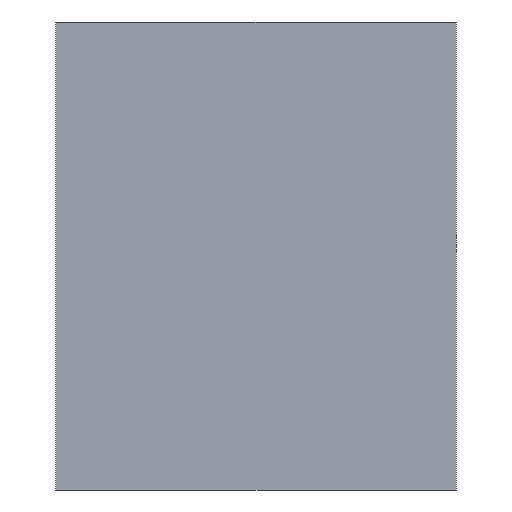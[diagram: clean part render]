
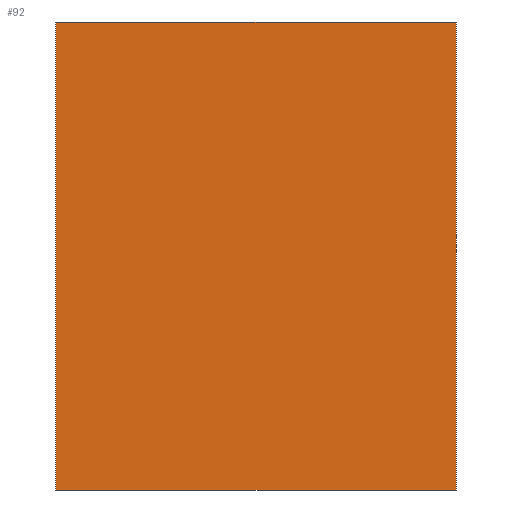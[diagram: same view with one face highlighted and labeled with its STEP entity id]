
A CAD part, top view. The second image highlights one B-rep face of the part: STEP entity #92.
In plain terms, the highlighted planar face has unit normal (0, 0, 1).
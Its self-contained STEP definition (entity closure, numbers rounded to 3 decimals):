
#53=CARTESIAN_POINT('Axis2P3D Location',(0.,0.,0.)) ;
#58=CARTESIAN_POINT('Line Origine',(59.5,0.,0.)) ;
#62=CARTESIAN_POINT('Vertex',(0.,0.,0.)) ;
#64=CARTESIAN_POINT('Vertex',(119.,0.,0.)) ;
#67=CARTESIAN_POINT('Line Origine',(119.,69.5,0.)) ;
#71=CARTESIAN_POINT('Vertex',(119.,139.,0.)) ;
#74=CARTESIAN_POINT('Line Origine',(59.5,139.,0.)) ;
#78=CARTESIAN_POINT('Vertex',(0.,139.,0.)) ;
#81=CARTESIAN_POINT('Line Origine',(0.,69.5,0.)) ;
#54=DIRECTION('Axis2P3D Direction',(0.,0.,1.)) ;
#55=DIRECTION('Axis2P3D XDirection',(1.,0.,0.)) ;
#59=DIRECTION('Vector Direction',(1.,0.,0.)) ;
#68=DIRECTION('Vector Direction',(0.,1.,0.)) ;
#75=DIRECTION('Vector Direction',(-1.,0.,0.)) ;
#82=DIRECTION('Vector Direction',(0.,-1.,0.)) ;
#56=AXIS2_PLACEMENT_3D('Plane Axis2P3D',#53,#54,#55) ;
#87=ORIENTED_EDGE('',*,*,#66,.T.) ;
#88=ORIENTED_EDGE('',*,*,#73,.T.) ;
#89=ORIENTED_EDGE('',*,*,#80,.T.) ;
#90=ORIENTED_EDGE('',*,*,#85,.T.) ;
#60=VECTOR('Line Direction',#59,1.) ;
#69=VECTOR('Line Direction',#68,1.) ;
#76=VECTOR('Line Direction',#75,1.) ;
#83=VECTOR('Line Direction',#82,1.) ;
#92=ADVANCED_FACE('Fill.1',(#91),#57,.T.) ;
#66=EDGE_CURVE('',#63,#65,#61,.T.) ;
#73=EDGE_CURVE('',#65,#72,#70,.T.) ;
#80=EDGE_CURVE('',#72,#79,#77,.T.) ;
#85=EDGE_CURVE('',#79,#63,#84,.T.) ;
#86=EDGE_LOOP('',(#87,#88,#89,#90)) ;
#91=FACE_OUTER_BOUND('',#86,.T.) ;
#61=LINE('Line',#58,#60) ;
#70=LINE('Line',#67,#69) ;
#77=LINE('Line',#74,#76) ;
#84=LINE('Line',#81,#83) ;
#57=PLANE('',#56) ;
#63=VERTEX_POINT('',#62) ;
#65=VERTEX_POINT('',#64) ;
#72=VERTEX_POINT('',#71) ;
#79=VERTEX_POINT('',#78) ;
